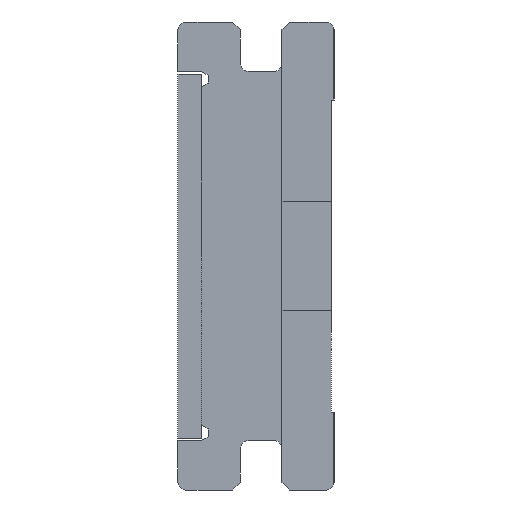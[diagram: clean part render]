
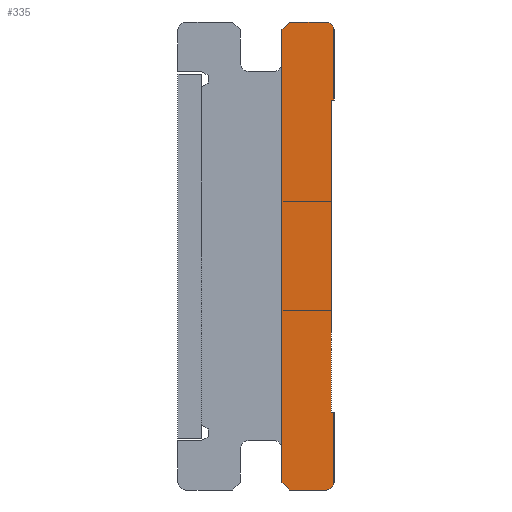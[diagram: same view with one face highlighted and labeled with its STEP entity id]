
A CAD part, left-side view. The second image highlights one B-rep face of the part: STEP entity #335.
In plain terms, the highlighted planar face has unit normal (-1, 0, 0).
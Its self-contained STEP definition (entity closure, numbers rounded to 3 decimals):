
#34 = DIRECTION ( 'NONE',  ( 0., -1., 0. ) ) ;
#61 = VECTOR ( 'NONE', #1125, 1000. ) ;
#75 = CARTESIAN_POINT ( 'NONE',  ( 0., 5.1, -15.8 ) ) ;
#84 = VERTEX_POINT ( 'NONE', #2370 ) ;
#157 = DIRECTION ( 'NONE',  ( 0., 1., 0. ) ) ;
#158 = ORIENTED_EDGE ( 'NONE', *, *, #2457, .F. ) ;
#182 = LINE ( 'NONE', #608, #1236 ) ;
#234 = VECTOR ( 'NONE', #454, 1000. ) ;
#250 = CARTESIAN_POINT ( 'NONE',  ( 0., 0.3, -18. ) ) ;
#258 = LINE ( 'NONE', #294, #1784 ) ;
#263 = ORIENTED_EDGE ( 'NONE', *, *, #784, .F. ) ;
#271 = DIRECTION ( 'NONE',  ( 0., 0., -1. ) ) ;
#273 = CARTESIAN_POINT ( 'NONE',  ( 0., 0., -15. ) ) ;
#274 = EDGE_CURVE ( 'NONE', #599, #2460, #1622, .T. ) ;
#289 = ORIENTED_EDGE ( 'NONE', *, *, #1513, .F. ) ;
#294 = CARTESIAN_POINT ( 'NONE',  ( 0., 0.3, -18. ) ) ;
#306 = EDGE_CURVE ( 'NONE', #2045, #2260, #1971, .T. ) ;
#335 = ADVANCED_FACE ( 'NONE', ( #1424 ), #2378, .F. ) ;
#372 = LINE ( 'NONE', #386, #61 ) ;
#386 = CARTESIAN_POINT ( 'NONE',  ( 0., 1.7, 0. ) ) ;
#392 = DIRECTION ( 'NONE',  ( 1., 0., 0. ) ) ;
#454 = DIRECTION ( 'NONE',  ( 0., 0., -1. ) ) ;
#467 = DIRECTION ( 'NONE',  ( 0., 1., 0. ) ) ;
#487 = DIRECTION ( 'NONE',  ( 0., 1., 0. ) ) ;
#494 = DIRECTION ( 'NONE',  ( 0., 0., 1. ) ) ;
#515 = ORIENTED_EDGE ( 'NONE', *, *, #2331, .F. ) ;
#520 = DIRECTION ( 'NONE',  ( 1., 0., 0. ) ) ;
#532 = EDGE_CURVE ( 'NONE', #1837, #2136, #618, .T. ) ;
#564 = CARTESIAN_POINT ( 'NONE',  ( 0., 2., -0.3 ) ) ;
#582 = ORIENTED_EDGE ( 'NONE', *, *, #2153, .F. ) ;
#588 = VECTOR ( 'NONE', #271, 1000. ) ;
#599 = VERTEX_POINT ( 'NONE', #2454 ) ;
#603 = VERTEX_POINT ( 'NONE', #1326 ) ;
#608 = CARTESIAN_POINT ( 'NONE',  ( 0., 0., -3. ) ) ;
#618 = CIRCLE ( 'NONE', #986, 0.3 ) ;
#645 = AXIS2_PLACEMENT_3D ( 'NONE', #75, #2185, #467 ) ;
#690 = VECTOR ( 'NONE', #1294, 1000. ) ;
#694 = CARTESIAN_POINT ( 'NONE',  ( 0., 0.1, -3. ) ) ;
#704 = LINE ( 'NONE', #2234, #2061 ) ;
#744 = VECTOR ( 'NONE', #1204, 1000. ) ;
#750 = CARTESIAN_POINT ( 'NONE',  ( 0., 0.3, -17.7 ) ) ;
#784 = EDGE_CURVE ( 'NONE', #2136, #2350, #258, .T. ) ;
#881 = EDGE_LOOP ( 'NONE', ( #1775, #2109, #515, #263, #1567, #1181, #1023, #582, #158, #2369, #2093, #289 ) ) ;
#903 = VERTEX_POINT ( 'NONE', #1778 ) ;
#986 = AXIS2_PLACEMENT_3D ( 'NONE', #750, #392, #1130 ) ;
#1023 = ORIENTED_EDGE ( 'NONE', *, *, #306, .F. ) ;
#1083 = CARTESIAN_POINT ( 'NONE',  ( 0., 0.1, -15. ) ) ;
#1102 = CARTESIAN_POINT ( 'NONE',  ( 0., 1.7, -18. ) ) ;
#1125 = DIRECTION ( 'NONE',  ( 0., -0.707, 0.707 ) ) ;
#1130 = DIRECTION ( 'NONE',  ( 0., 0., -1. ) ) ;
#1181 = ORIENTED_EDGE ( 'NONE', *, *, #1443, .F. ) ;
#1204 = DIRECTION ( 'NONE',  ( 0., 0., 1. ) ) ;
#1236 = VECTOR ( 'NONE', #157, 1000. ) ;
#1246 = CARTESIAN_POINT ( 'NONE',  ( 0., 2., -17.7 ) ) ;
#1294 = DIRECTION ( 'NONE',  ( 0., 0., -1. ) ) ;
#1308 = LINE ( 'NONE', #1850, #690 ) ;
#1320 = CIRCLE ( 'NONE', #1402, 0.3 ) ;
#1321 = CARTESIAN_POINT ( 'NONE',  ( 0., 0.3, -0.3 ) ) ;
#1326 = CARTESIAN_POINT ( 'NONE',  ( 0., 2., -17.7 ) ) ;
#1398 = LINE ( 'NONE', #1804, #588 ) ;
#1402 = AXIS2_PLACEMENT_3D ( 'NONE', #1321, #520, #494 ) ;
#1424 = FACE_OUTER_BOUND ( 'NONE', #881, .T. ) ;
#1443 = EDGE_CURVE ( 'NONE', #2260, #1837, #1308, .T. ) ;
#1452 = VECTOR ( 'NONE', #34, 1000. ) ;
#1493 = DIRECTION ( 'NONE',  ( 0., 0.707, 0.707 ) ) ;
#1513 = EDGE_CURVE ( 'NONE', #903, #84, #1549, .T. ) ;
#1549 = LINE ( 'NONE', #1578, #1452 ) ;
#1567 = ORIENTED_EDGE ( 'NONE', *, *, #532, .F. ) ;
#1578 = CARTESIAN_POINT ( 'NONE',  ( 0., 0.3, 0. ) ) ;
#1622 = LINE ( 'NONE', #1830, #234 ) ;
#1654 = VECTOR ( 'NONE', #2363, 1000. ) ;
#1686 = VERTEX_POINT ( 'NONE', #564 ) ;
#1775 = ORIENTED_EDGE ( 'NONE', *, *, #2427, .F. ) ;
#1778 = CARTESIAN_POINT ( 'NONE',  ( 0., 1.7, 0. ) ) ;
#1784 = VECTOR ( 'NONE', #487, 1000. ) ;
#1804 = CARTESIAN_POINT ( 'NONE',  ( 0., 0.1, -3. ) ) ;
#1809 = LINE ( 'NONE', #1246, #744 ) ;
#1830 = CARTESIAN_POINT ( 'NONE',  ( 0., 0., -0.3 ) ) ;
#1837 = VERTEX_POINT ( 'NONE', #2186 ) ;
#1850 = CARTESIAN_POINT ( 'NONE',  ( 0., 0., -15. ) ) ;
#1915 = CARTESIAN_POINT ( 'NONE',  ( 0., 0., -3. ) ) ;
#1945 = EDGE_CURVE ( 'NONE', #603, #1686, #1809, .T. ) ;
#1968 = CARTESIAN_POINT ( 'NONE',  ( 0., 0., -15. ) ) ;
#1971 = LINE ( 'NONE', #273, #1654 ) ;
#2045 = VERTEX_POINT ( 'NONE', #1083 ) ;
#2061 = VECTOR ( 'NONE', #1493, 1000. ) ;
#2093 = ORIENTED_EDGE ( 'NONE', *, *, #2354, .F. ) ;
#2109 = ORIENTED_EDGE ( 'NONE', *, *, #1945, .F. ) ;
#2136 = VERTEX_POINT ( 'NONE', #250 ) ;
#2153 = EDGE_CURVE ( 'NONE', #2326, #2045, #1398, .T. ) ;
#2185 = DIRECTION ( 'NONE',  ( 1., 0., 0. ) ) ;
#2186 = CARTESIAN_POINT ( 'NONE',  ( 0., 0., -17.7 ) ) ;
#2234 = CARTESIAN_POINT ( 'NONE',  ( 0., 1.7, -18. ) ) ;
#2260 = VERTEX_POINT ( 'NONE', #1968 ) ;
#2326 = VERTEX_POINT ( 'NONE', #694 ) ;
#2331 = EDGE_CURVE ( 'NONE', #2350, #603, #704, .T. ) ;
#2350 = VERTEX_POINT ( 'NONE', #1102 ) ;
#2354 = EDGE_CURVE ( 'NONE', #84, #599, #1320, .T. ) ;
#2363 = DIRECTION ( 'NONE',  ( 0., -1., 0. ) ) ;
#2369 = ORIENTED_EDGE ( 'NONE', *, *, #274, .F. ) ;
#2370 = CARTESIAN_POINT ( 'NONE',  ( 0., 0.3, 0. ) ) ;
#2378 = PLANE ( 'NONE',  #645 ) ;
#2427 = EDGE_CURVE ( 'NONE', #1686, #903, #372, .T. ) ;
#2454 = CARTESIAN_POINT ( 'NONE',  ( 0., 0., -0.3 ) ) ;
#2457 = EDGE_CURVE ( 'NONE', #2460, #2326, #182, .T. ) ;
#2460 = VERTEX_POINT ( 'NONE', #1915 ) ;
